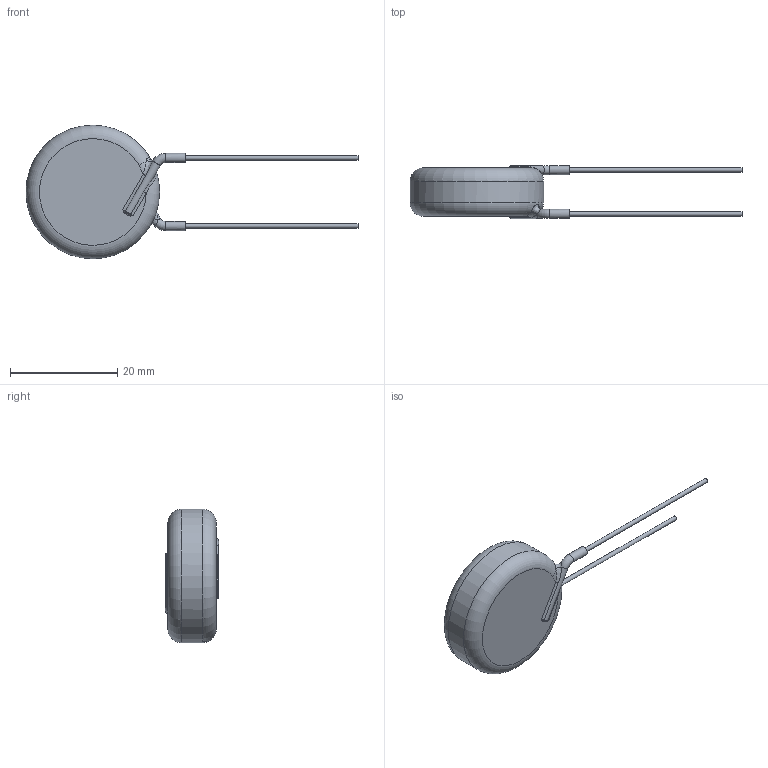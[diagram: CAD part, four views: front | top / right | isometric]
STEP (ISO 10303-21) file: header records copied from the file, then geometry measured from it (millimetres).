
FILE_DESCRIPTION((''),'2;1');
FILE_NAME('I:\Marketing\M6t1\3D-Models\Zchng-Werk-3\Upload for homepage\Ceramite\Z5U-10kV\615R100GAD33\615R100GAD33.stp','2015-08-28T08:57:09',(''),(''),'Autodesk Inventor 2013','Autodesk Inventor 2013','');
FILE_SCHEMA(('AUTOMOTIVE_DESIGN { 1 0 10303 214 1 1 1 1 }'));
Length unit declared in the file: centimetre
Products named in the file (1): 615R100GAD33
Bounding box: 61.9 x 9.9 x 24.9 mm (x, y, z)
Volume: 4266.8 mm3; surface area: 1751.2 mm2
Topology: 1 solids, 1 shells, 46 faces, 104 edges, 58 vertices
Faces by surface type: bspline 14, cylinder 13, torus 11, plane 8
Full cylindrical faces by diameter (mm): 0.81 x2, 1.7 x2, 24.9 x1
Entity records: 1670 total; most frequent: CARTESIAN_POINT 755, ORIENTED_EDGE 164, DIRECTION 160, EDGE_CURVE 82, AXIS2_PLACEMENT_3D 74, EDGE_LOOP 56, VERTEX_POINT 50, STYLED_ITEM 46
